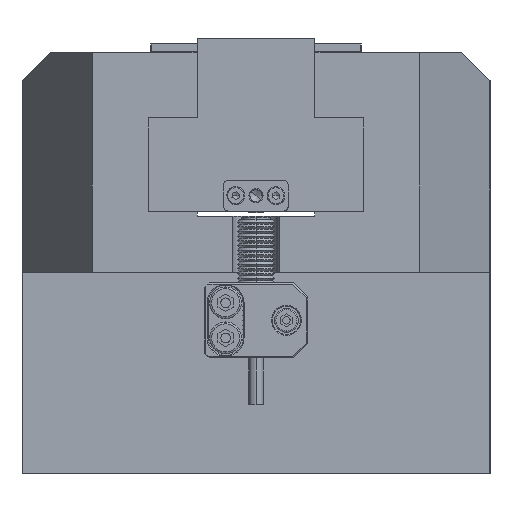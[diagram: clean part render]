
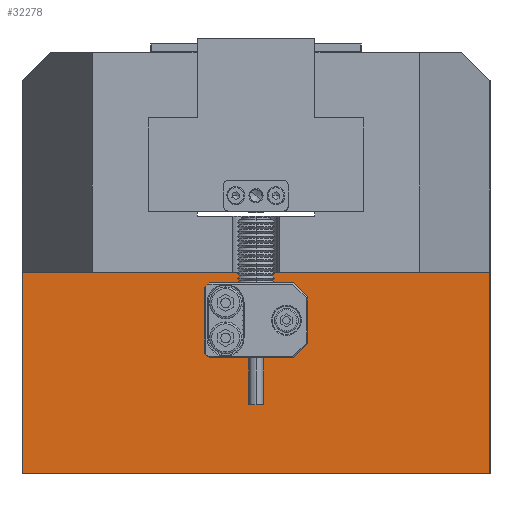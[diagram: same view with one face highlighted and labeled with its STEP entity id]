
A CAD part, left-side view. The second image highlights one B-rep face of the part: STEP entity #32278.
In plain terms, the highlighted planar face has unit normal (-1, 0, 0).
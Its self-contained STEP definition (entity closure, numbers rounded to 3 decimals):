
#1339 = DIRECTION ( 'NONE',  ( 1., 0., 0. ) ) ;
#5064 = VERTEX_POINT ( 'NONE', #29044 ) ;
#5840 = LINE ( 'NONE', #63790, #58330 ) ;
#6969 = ORIENTED_EDGE ( 'NONE', *, *, #8779, .F. ) ;
#7096 = EDGE_CURVE ( 'NONE', #8821, #5064, #51395, .T. ) ;
#7580 = AXIS2_PLACEMENT_3D ( 'NONE', #48552, #63391, #59223 ) ;
#8045 = DIRECTION ( 'NONE',  ( 0., 1., 0. ) ) ;
#8743 = EDGE_CURVE ( 'NONE', #31557, #11814, #9767, .T. ) ;
#8779 = EDGE_CURVE ( 'NONE', #40867, #33648, #5840, .T. ) ;
#8821 = VERTEX_POINT ( 'NONE', #33113 ) ;
#9767 = CIRCLE ( 'NONE', #32937, 2. ) ;
#10185 = CARTESIAN_POINT ( 'NONE',  ( -77.508, 66.486, -35.452 ) ) ;
#10997 = CIRCLE ( 'NONE', #35227, 2. ) ;
#11656 = FACE_OUTER_BOUND ( 'NONE', #64227, .T. ) ;
#11723 = DIRECTION ( 'NONE',  ( 0., 0., -1. ) ) ;
#11814 = VERTEX_POINT ( 'NONE', #61270 ) ;
#16457 = DIRECTION ( 'NONE',  ( 1., 0., 0. ) ) ;
#17168 = PLANE ( 'NONE',  #7580 ) ;
#17983 = ORIENTED_EDGE ( 'NONE', *, *, #48234, .F. ) ;
#21759 = CARTESIAN_POINT ( 'NONE',  ( -77.508, 22.986, -6.452 ) ) ;
#21796 = CARTESIAN_POINT ( 'NONE',  ( -77.508, -33.514, -35.452 ) ) ;
#21989 = CARTESIAN_POINT ( 'NONE',  ( -77.508, 22.986, 1.048 ) ) ;
#22345 = DIRECTION ( 'NONE',  ( 0., 1., 0. ) ) ;
#23617 = EDGE_CURVE ( 'NONE', #11814, #31557, #10997, .T. ) ;
#23701 = ORIENTED_EDGE ( 'NONE', *, *, #7096, .T. ) ;
#24956 = LINE ( 'NONE', #60809, #30049 ) ;
#26039 = CARTESIAN_POINT ( 'NONE',  ( -77.508, 66.486, -35.452 ) ) ;
#26985 = LINE ( 'NONE', #21796, #59484 ) ;
#28075 = DIRECTION ( 'NONE',  ( 1., 0., 0. ) ) ;
#29044 = CARTESIAN_POINT ( 'NONE',  ( -77.508, 20.986, 1.048 ) ) ;
#30049 = VECTOR ( 'NONE', #8045, 1000. ) ;
#31221 = LINE ( 'NONE', #26039, #45988 ) ;
#31245 = EDGE_LOOP ( 'NONE', ( #45164, #51171 ) ) ;
#31557 = VERTEX_POINT ( 'NONE', #45585 ) ;
#32171 = CARTESIAN_POINT ( 'NONE',  ( -77.508, -33.514, 7.548 ) ) ;
#32278 = ADVANCED_FACE ( 'NONE', ( #58896, #42713, #11656 ), #17168, .F. ) ;
#32937 = AXIS2_PLACEMENT_3D ( 'NONE', #21759, #1339, #43124 ) ;
#33113 = CARTESIAN_POINT ( 'NONE',  ( -77.508, 24.986, 1.048 ) ) ;
#33498 = ORIENTED_EDGE ( 'NONE', *, *, #41567, .T. ) ;
#33648 = VERTEX_POINT ( 'NONE', #66552 ) ;
#34233 = EDGE_LOOP ( 'NONE', ( #23701, #56421 ) ) ;
#35227 = AXIS2_PLACEMENT_3D ( 'NONE', #38382, #28075, #58727 ) ;
#37919 = VERTEX_POINT ( 'NONE', #62457 ) ;
#38382 = CARTESIAN_POINT ( 'NONE',  ( -77.508, 22.986, -6.452 ) ) ;
#39397 = EDGE_CURVE ( 'NONE', #45514, #37919, #31221, .T. ) ;
#40867 = VERTEX_POINT ( 'NONE', #32171 ) ;
#41567 = EDGE_CURVE ( 'NONE', #40867, #37919, #24956, .T. ) ;
#41876 = DIRECTION ( 'NONE',  ( 0., 0., 1. ) ) ;
#42713 = FACE_BOUND ( 'NONE', #34233, .T. ) ;
#43124 = DIRECTION ( 'NONE',  ( 0., 1., 0. ) ) ;
#43530 = EDGE_CURVE ( 'NONE', #5064, #8821, #64318, .T. ) ;
#45164 = ORIENTED_EDGE ( 'NONE', *, *, #23617, .T. ) ;
#45514 = VERTEX_POINT ( 'NONE', #10185 ) ;
#45585 = CARTESIAN_POINT ( 'NONE',  ( -77.508, 20.986, -6.452 ) ) ;
#45988 = VECTOR ( 'NONE', #41876, 1000. ) ;
#48234 = EDGE_CURVE ( 'NONE', #33648, #45514, #26985, .T. ) ;
#48552 = CARTESIAN_POINT ( 'NONE',  ( -77.508, -33.514, -35.452 ) ) ;
#51171 = ORIENTED_EDGE ( 'NONE', *, *, #8743, .T. ) ;
#51395 = CIRCLE ( 'NONE', #58020, 2. ) ;
#52425 = DIRECTION ( 'NONE',  ( 1., 0., 0. ) ) ;
#54434 = AXIS2_PLACEMENT_3D ( 'NONE', #57230, #52425, #63111 ) ;
#56421 = ORIENTED_EDGE ( 'NONE', *, *, #43530, .T. ) ;
#57230 = CARTESIAN_POINT ( 'NONE',  ( -77.508, 22.986, 1.048 ) ) ;
#58020 = AXIS2_PLACEMENT_3D ( 'NONE', #21989, #16457, #22345 ) ;
#58330 = VECTOR ( 'NONE', #11723, 1000. ) ;
#58652 = DIRECTION ( 'NONE',  ( 0., 1., 0. ) ) ;
#58727 = DIRECTION ( 'NONE',  ( 0., 1., 0. ) ) ;
#58896 = FACE_BOUND ( 'NONE', #31245, .T. ) ;
#59223 = DIRECTION ( 'NONE',  ( 0., 1., 0. ) ) ;
#59484 = VECTOR ( 'NONE', #58652, 1000. ) ;
#60809 = CARTESIAN_POINT ( 'NONE',  ( -77.508, -33.514, 7.548 ) ) ;
#61270 = CARTESIAN_POINT ( 'NONE',  ( -77.508, 24.986, -6.452 ) ) ;
#62457 = CARTESIAN_POINT ( 'NONE',  ( -77.508, 66.486, 7.548 ) ) ;
#63111 = DIRECTION ( 'NONE',  ( 0., 1., 0. ) ) ;
#63115 = ORIENTED_EDGE ( 'NONE', *, *, #39397, .F. ) ;
#63391 = DIRECTION ( 'NONE',  ( 1., 0., 0. ) ) ;
#63790 = CARTESIAN_POINT ( 'NONE',  ( -77.508, -33.514, 7.548 ) ) ;
#64227 = EDGE_LOOP ( 'NONE', ( #63115, #17983, #6969, #33498 ) ) ;
#64318 = CIRCLE ( 'NONE', #54434, 2. ) ;
#66552 = CARTESIAN_POINT ( 'NONE',  ( -77.508, -33.514, -35.452 ) ) ;
